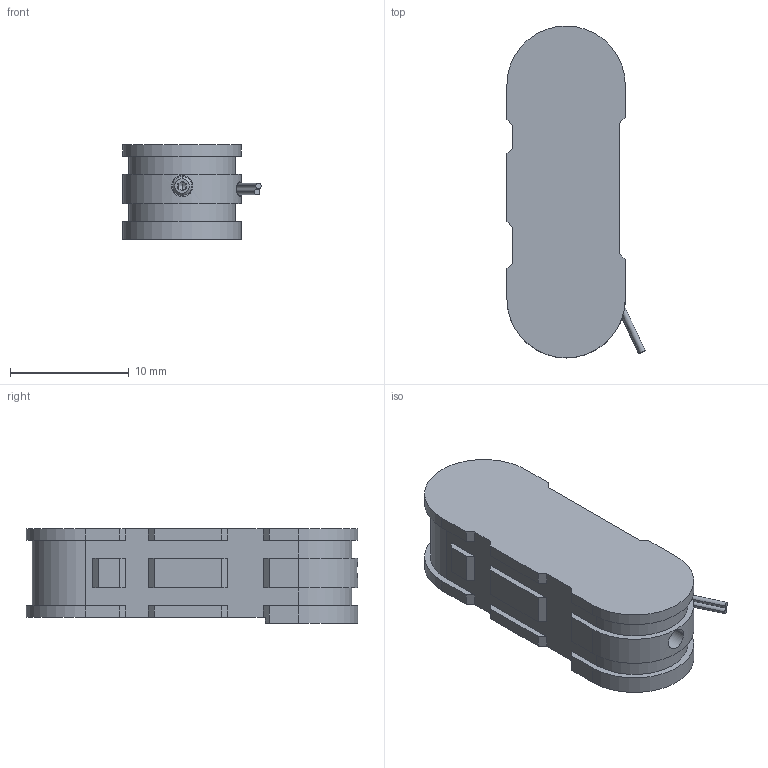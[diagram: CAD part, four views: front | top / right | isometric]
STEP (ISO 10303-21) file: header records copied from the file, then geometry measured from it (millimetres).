
FILE_DESCRIPTION (( 'STEP AP203' ), '1' );
FILE_NAME ('H01K9-B1嫖玹壩梠ん俋倛芞-24.04.15.STEP', '2024-04-15T07:03:40', ( '' ), ( '' ), 'SwSTEP 2.0', 'SolidWorks 2016', '' );
FILE_SCHEMA (( 'CONFIG_CONTROL_DESIGN' ));
Length unit declared in the file: millimetre
Products named in the file (1): H01K9-B1嫖玹壩梠ん俋倛芞-24.04.15
Bounding box: 11.67 x 28 x 8 mm (x, y, z)
Volume: 1765.7 mm3; surface area: 1276.2 mm2
Topology: 3 solids, 4 shells, 125 faces, 314 edges, 197 vertices
Faces by surface type: plane 75, cylinder 32, cone 14, torus 4
Entity records: 3777 total; most frequent: CARTESIAN_POINT 703, DIRECTION 628, ORIENTED_EDGE 608, EDGE_CURVE 304, LINE 220, VECTOR 220, AXIS2_PLACEMENT_3D 204, VERTEX_POINT 197
